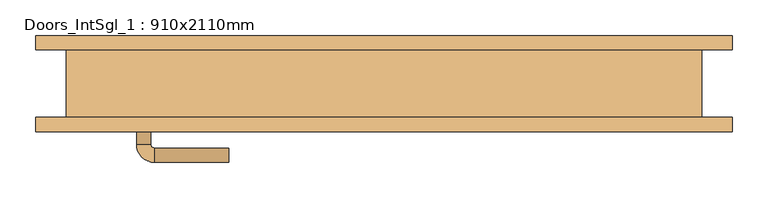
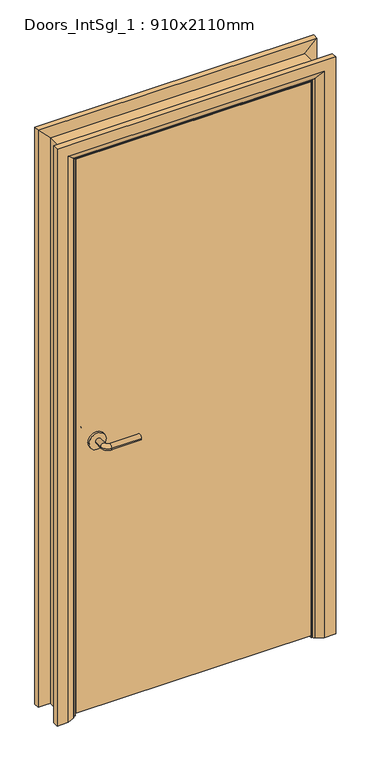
"""IFC4 building model written with IfcOpenShell, lengths in millimetres: door geometry, Doors_IntSgl_1 : 910x2110mm."""

from ifc_helpers import new_model, si_unit, point, frame, frame_2d, origin, place, context, project, spatial, polyline, circle_curve, ellipse_curve, trimmed, segment, composite_curve, outline, extrude, faceted_brep, source, transform, mapped, element, save
from ifc_brep_helpers import plane_surface, cylinder_surface, revolved_surface, advanced_brep


def doors_intsgl_1_910x2110mm_ba118736(model_context):
    return source(origin(), model_context, "Body", "SolidModel", [
        advanced_brep(
        [(-348.0, -1.5, 1000.0), (-328.0, -1.5, 1000.0), (-348.0, 28.5, 1000.0), (-328.0, 28.5, 1000.0), (-323.0, 33.5, 1000.0), (-323.0, 53.5, 1000.0), (-218.0, 53.5, 1000.0), (-218.0, 33.5, 1000.0)],
        [
            (0, 1, circle_curve(frame((-338.0, -1.5, 1000.0), z_axis=(0.0, -1.0, 0.0), x_axis=(1.0, 0.0, 0.0)), 10.0)),
            (1, 0, circle_curve(frame((-338.0, -1.5, 1000.0), z_axis=(0.0, -1.0, 0.0), x_axis=(1.0, 0.0, 0.0)), 10.0)),
            (0, 2),
            (2, 3, circle_curve(frame((-338.0, 28.5, 1000.0), z_axis=(0.0, -1.0, 0.0), x_axis=(1.0, 0.0, 0.0)), 10.0)),
            (3, 1),
            (3, 2, circle_curve(frame((-338.0, 28.5, 1000.0), z_axis=(0.0, -1.0, 0.0), x_axis=(1.0, 0.0, 0.0)), 10.0)),
            (4, 3, circle_curve(frame((-323.0, 28.5, 1000.0), z_axis=(0.0, 0.0, 1.0), x_axis=(-1.0, 0.0, 0.0)), 5.0)),
            (2, 5, circle_curve(frame((-323.0, 28.5, 1000.0), z_axis=(0.0, 0.0, -1.0), x_axis=(-1.0, 0.0, 0.0)), 25.0)),
            (5, 4, circle_curve(frame((-323.0, 43.5, 1000.0), z_axis=(-1.0, 0.0, 0.0), x_axis=(0.0, -1.0, 0.0)), 10.0)),
            (4, 5, circle_curve(frame((-323.0, 43.5, 1000.0), z_axis=(-1.0, 0.0, 0.0), x_axis=(0.0, -1.0, 0.0)), 10.0)),
            (6, 7, circle_curve(frame((-218.0, 43.5, 1000.0), z_axis=(1.0, 0.0, 0.0), x_axis=(0.0, -1.0, 0.0)), 10.0)),
            (7, 6, circle_curve(frame((-218.0, 43.5, 1000.0), z_axis=(1.0, 0.0, 0.0), x_axis=(0.0, -1.0, 0.0)), 10.0)),
            (5, 6),
            (7, 4),
        ],
        [
            plane_surface(frame((-338.0, -1.5, 1000.0), z_axis=(0.0, -1.0, 0.0), x_axis=(0.0, 0.0, 1.0))),
            cylinder_surface(frame((-338.0, -1.5, 1000.0), z_axis=(0.0, -1.0, 0.0), x_axis=(1.0, 0.0, 0.0)), 10.0),
            revolved_surface(trimmed(ellipse_curve(frame((-338.0, 28.5, 1000.0), z_axis=(0.0, -1.0, 0.0), x_axis=(1.0, 0.0, 0.0)), 10.0, 10.0), [point((-348.0, 28.5, 1000.0))], [point((-328.0, 28.5, 1000.0))], True, "CARTESIAN"), (-323.0, 28.5, 1000.0), (0.0, 0.0, -1.0)),
            revolved_surface(trimmed(ellipse_curve(frame((-338.0, 28.5, 1000.0), z_axis=(0.0, -1.0, 0.0), x_axis=(1.0, 0.0, 0.0)), 10.0, 10.0), [point((-328.0, 28.5, 1000.0))], [point((-348.0, 28.5, 1000.0))], True, "CARTESIAN"), (-323.0, 28.5, 1000.0), (0.0, 0.0, -1.0)),
            plane_surface(frame((-218.0, 43.5, 1000.0), z_axis=(1.0, 0.0, 0.0), x_axis=(0.0, 0.0, 1.0))),
            cylinder_surface(frame((-323.0, 43.5, 1000.0), z_axis=(-1.0, 0.0, 0.0), x_axis=(0.0, -1.0, 0.0)), 10.0),
        ],
        [
            (0, [[1, 2]]),
            (1, [[-1, 3, 4, 5]]),
            (1, [[-2, -5, 6, -3]]),
            (2, [[7, -4, 8, 9]]),
            (3, [[-8, -6, -7, 10]]),
            (4, [[11, 12]]),
            (5, [[-9, 13, -12, 14]]),
            (5, [[-10, -14, -11, -13]]),
        ],
    ),
        extrude(outline(composite_curve([segment(trimmed(circle_curve(frame_2d((1000.0, -340.5)), 30.0), [point((1000.0, -370.5))], [point((1000.0, -310.5))], False, "CARTESIAN"), True, "CONTINUOUS"), segment(trimmed(circle_curve(frame_2d((1000.0, -340.5)), 30.0), [point((1000.0, -310.5))], [point((1000.0, -370.5))], False, "CARTESIAN"), True, "CONTINUOUS")], self_intersect=False)), frame((0.0, -9.5, 0.0), z_axis=(0.0, 1.0, 0.0), x_axis=(0.0, 0.0, 1.0)), (0.0, 0.0, 1.0), 8.0),
        advanced_brep(
        [(-348.0, -55.5, 1000.0), (-328.0, -55.5, 1000.0), (-328.0, -85.5, 1000.0), (-348.0, -85.5, 1000.0), (-323.0, -90.5, 1000.0), (-323.0, -110.5, 1000.0), (-218.0, -110.5, 1000.0), (-218.0, -90.5, 1000.0)],
        [
            (0, 1, circle_curve(frame((-338.0, -55.5, 1000.0), z_axis=(0.0, 1.0, 0.0), x_axis=(1.0, 0.0, 0.0)), 10.0)),
            (1, 0, circle_curve(frame((-338.0, -55.5, 1000.0), z_axis=(0.0, 1.0, 0.0), x_axis=(1.0, 0.0, 0.0)), 10.0)),
            (1, 2),
            (2, 3, circle_curve(frame((-338.0, -85.5, 1000.0), z_axis=(0.0, 1.0, 0.0), x_axis=(1.0, 0.0, 0.0)), 10.0)),
            (3, 0),
            (3, 2, circle_curve(frame((-338.0, -85.5, 1000.0), z_axis=(0.0, 1.0, 0.0), x_axis=(1.0, 0.0, 0.0)), 10.0)),
            (4, 5, circle_curve(frame((-323.0, -100.5, 1000.0), z_axis=(-1.0, 0.0, 0.0), x_axis=(0.0, 1.0, 0.0)), 10.0)),
            (5, 3, circle_curve(frame((-323.0, -85.5, 1000.0), z_axis=(0.0, 0.0, -1.0), x_axis=(-1.0, 0.0, 0.0)), 25.0)),
            (2, 4, circle_curve(frame((-323.0, -85.5, 1000.0), z_axis=(0.0, 0.0, 1.0), x_axis=(-1.0, 0.0, 0.0)), 5.0)),
            (5, 4, circle_curve(frame((-323.0, -100.5, 1000.0), z_axis=(-1.0, 0.0, 0.0), x_axis=(0.0, 1.0, 0.0)), 10.0)),
            (6, 7, circle_curve(frame((-218.0, -100.5, 1000.0), z_axis=(1.0, 0.0, 0.0), x_axis=(0.0, 1.0, 0.0)), 10.0)),
            (7, 6, circle_curve(frame((-218.0, -100.5, 1000.0), z_axis=(1.0, 0.0, 0.0), x_axis=(0.0, 1.0, 0.0)), 10.0)),
            (4, 7),
            (6, 5),
        ],
        [
            plane_surface(frame((-338.0, -55.5, 1000.0), z_axis=(0.0, 1.0, 0.0), x_axis=(0.0, 0.0, 1.0))),
            cylinder_surface(frame((-338.0, -55.5, 1000.0), z_axis=(0.0, 1.0, 0.0), x_axis=(1.0, 0.0, 0.0)), 10.0),
            revolved_surface(trimmed(ellipse_curve(frame((-338.0, -85.5, 1000.0), z_axis=(0.0, -1.0, 0.0), x_axis=(1.0, 0.0, 0.0)), 10.0, 10.0), [point((-348.0, -85.5, 1000.0))], [point((-328.0, -85.5, 1000.0))], True, "CARTESIAN"), (-323.0, -85.5, 1000.0), (0.0, 0.0, -1.0)),
            revolved_surface(trimmed(ellipse_curve(frame((-338.0, -85.5, 1000.0), z_axis=(0.0, -1.0, 0.0), x_axis=(1.0, 0.0, 0.0)), 10.0, 10.0), [point((-328.0, -85.5, 1000.0))], [point((-348.0, -85.5, 1000.0))], True, "CARTESIAN"), (-323.0, -85.5, 1000.0), (0.0, 0.0, -1.0)),
            plane_surface(frame((-218.0, -100.5, 1000.0), z_axis=(1.0, 0.0, 0.0), x_axis=(0.0, 0.0, 1.0))),
            cylinder_surface(frame((-323.0, -100.5, 1000.0), z_axis=(-1.0, 0.0, 0.0), x_axis=(0.0, 1.0, 0.0)), 10.0),
        ],
        [
            (0, [[1, 2]]),
            (1, [[3, 4, 5, -2]]),
            (1, [[-5, 6, -3, -1]]),
            (2, [[7, 8, -4, 9]]),
            (3, [[10, -9, -6, -8]]),
            (4, [[11, 12]]),
            (5, [[13, -11, 14, -7]]),
            (5, [[-14, -12, -13, -10]]),
        ],
    ),
        extrude(outline(composite_curve([segment(trimmed(circle_curve(frame_2d((1000.0, -340.5)), 30.0), [point((1000.0, -370.5))], [point((1000.0, -310.5))], False, "CARTESIAN"), True, "CONTINUOUS"), segment(trimmed(circle_curve(frame_2d((1000.0, -340.5)), 30.0), [point((1000.0, -310.5))], [point((1000.0, -370.5))], False, "CARTESIAN"), True, "CONTINUOUS")], self_intersect=False)), frame((0.0, -55.5, 0.0), z_axis=(0.0, 1.0, 0.0), x_axis=(0.0, 0.0, 1.0)), (0.0, 0.0, 1.0), 8.0),
        extrude(outline(polyline([(413.0, -9.5), (413.0, -47.5), (-413.0, -47.5), (-413.0, -9.5), (413.0, -9.5)])), frame((0.0, 0.0, 8.0), z_axis=(0.0, 0.0, 1.0), x_axis=(1.0, 0.0, 0.0)), (0.0, 0.0, 1.0), 2060.0),
        faceted_brep([(-415.0, -47.5, 0.0), (-447.0, -47.5, 0.0), (-447.0, 47.5, 0.0), (-415.0, 47.5, 0.0), (-415.0, 47.5, 2070.0), (-415.0, -47.5, 2070.0), (-447.0, 47.5, 2102.0), (-447.0, -47.5, 2102.0), (415.0, -47.5, 0.0), (415.0, 47.5, 0.0), (447.0, 47.5, 0.0), (447.0, -47.5, 0.0), (415.0, -47.5, 2070.0), (447.0, -47.5, 2102.0), (447.0, 47.5, 2102.0), (415.0, 47.5, 2070.0)], [[[0, 1, 2, 3]], [[3, 4, 5, 0]], [[2, 6, 4, 3]], [[1, 7, 6, 2]], [[0, 5, 7, 1]], [[8, 9, 10, 11]], [[12, 8, 11, 13]], [[13, 11, 10, 14]], [[14, 10, 9, 15]], [[15, 9, 8, 12]], [[4, 15, 12, 5]], [[6, 14, 15, 4]], [[7, 13, 14, 6]], [[5, 12, 13, 7]]]),
        advanced_brep(
        [(-490.0, 67.5, 0.0), (-450.0, 67.5, 0.0), (-424.0, 53.5, 0.0), (-420.0, 47.5, 0.0), (-490.0, 47.5, 0.0), (-490.0, 47.5, 2145.0), (-490.0, 67.5, 2145.0), (-420.0, 47.5, 2075.0), (-424.0, 53.5, 2079.0), (-450.0, 67.5, 2105.0), (490.0, 67.5, 0.0), (490.0, 47.5, 0.0), (420.0, 47.5, 0.0), (424.0, 53.5, 0.0), (450.0, 67.5, 0.0), (490.0, 67.5, 2145.0), (450.0, 67.5, 2105.0), (424.0, 53.5, 2079.0), (420.0, 47.5, 2075.0), (490.0, 47.5, 2145.0)],
        [
            (0, 1),
            (1, 2),
            (2, 3, circle_curve(frame((-428.0, 46.5, 0.0), z_axis=(0.0, 0.0, -1.0), x_axis=(-1.0, 0.0, 0.0)), 8.0622577)),
            (3, 4),
            (4, 0),
            (4, 5),
            (5, 6),
            (6, 0),
            (3, 7),
            (7, 5),
            (2, 8),
            (8, 7, ellipse_curve(frame((-428.0, 46.5, 2083.0), z_axis=(-0.7071067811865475, 0.0, -0.7071067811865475), x_axis=(0.7071067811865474, 0.0, -0.7071067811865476)), 11.4017543, 8.0622577)),
            (1, 9),
            (9, 8),
            (6, 9),
            (10, 11),
            (11, 12),
            (12, 13, circle_curve(frame((428.0, 46.5, 0.0), z_axis=(0.0, 0.0, -1.0), x_axis=(1.0, 0.0, 0.0)), 8.0622577)),
            (13, 14),
            (14, 10),
            (15, 10),
            (14, 16),
            (16, 15),
            (13, 17),
            (17, 16),
            (12, 18),
            (18, 17, ellipse_curve(frame((428.0, 46.5, 2083.0), z_axis=(0.7071067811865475, 0.0, -0.7071067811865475), x_axis=(0.7071067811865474, 0.0, 0.7071067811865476)), 11.4017543, 8.0622577)),
            (11, 19),
            (19, 18),
            (15, 19),
            (5, 19),
            (15, 6),
            (7, 18),
            (8, 17),
            (9, 16),
        ],
        [
            plane_surface(frame((-420.0, 120.3010989, 0.0), z_axis=(0.0, 0.0, -1.0), x_axis=(1.0, 0.0, 0.0))),
            plane_surface(frame((-490.0, 67.5, 0.0), z_axis=(-1.0, 0.0, 0.0), x_axis=(0.0, 0.0, 1.0))),
            plane_surface(frame((-490.0, 47.5, 0.0), z_axis=(0.0, -1.0, 0.0), x_axis=(0.0, 0.0, 1.0))),
            cylinder_surface(frame((-428.0, 46.5, 0.0), z_axis=(0.0, 0.0, -1.0), x_axis=(-1.0, 0.0, 0.0)), 8.0622577),
            plane_surface(frame((-424.0, 53.5, 0.0), z_axis=(0.4740998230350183, 0.8804710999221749, 0.0), x_axis=(0.0, 0.0, 1.0))),
            plane_surface(frame((-450.0, 67.5, 0.0), z_axis=(0.0, 1.0, 0.0), x_axis=(0.0, 0.0, 1.0))),
            plane_surface(frame((420.0, 120.3010989, 0.0), z_axis=(0.0, 0.0, -1.0), x_axis=(-1.0, 0.0, 0.0))),
            plane_surface(frame((450.0, 67.5, 2105.0), z_axis=(0.0, 1.0, 0.0), x_axis=(0.0, 0.0, -1.0))),
            plane_surface(frame((424.0, 53.5, 2079.0), z_axis=(-0.4740998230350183, 0.8804710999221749, 0.0), x_axis=(0.0, 0.0, -1.0))),
            cylinder_surface(frame((428.0, 46.5, 2075.0), z_axis=(0.0, 0.0, 1.0), x_axis=(1.0, 0.0, 0.0)), 8.0622577),
            plane_surface(frame((490.0, 47.5, 2145.0), z_axis=(0.0, -1.0, 0.0), x_axis=(0.0, 0.0, -1.0))),
            plane_surface(frame((490.0, 67.5, 2145.0), z_axis=(1.0, 0.0, 0.0), x_axis=(0.0, 0.0, -1.0))),
            plane_surface(frame((-490.0, 67.5, 2145.0), z_axis=(0.0, 0.0, 1.0), x_axis=(1.0, 0.0, 0.0))),
            plane_surface(frame((-490.0, 47.5, 2145.0), z_axis=(0.0, -1.0, 0.0), x_axis=(1.0, 0.0, 0.0))),
            cylinder_surface(frame((-420.0, 46.5, 2083.0), z_axis=(-1.0, 0.0, 0.0), x_axis=(0.0, 0.0, 1.0)), 8.0622577),
            plane_surface(frame((-424.0, 53.5, 2079.0), z_axis=(0.0, 0.8804710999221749, -0.4740998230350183), x_axis=(1.0, 0.0, 0.0))),
            plane_surface(frame((-450.0, 67.5, 2105.0), z_axis=(0.0, 1.0, 0.0), x_axis=(1.0, 0.0, 0.0))),
        ],
        [
            (0, [[1, 2, 3, 4, 5]]),
            (1, [[6, 7, 8, -5]]),
            (2, [[9, 10, -6, -4]]),
            (3, [[11, 12, -9, -3]]),
            (4, [[13, 14, -11, -2]]),
            (5, [[-8, 15, -13, -1]]),
            (6, [[16, 17, 18, 19, 20]]),
            (7, [[21, -20, 22, 23]]),
            (8, [[-22, -19, 24, 25]]),
            (9, [[-24, -18, 26, 27]]),
            (10, [[-26, -17, 28, 29]]),
            (11, [[-28, -16, -21, 30]]),
            (12, [[31, -30, 32, -7]]),
            (13, [[33, -29, -31, -10]]),
            (14, [[34, -27, -33, -12]]),
            (15, [[35, -25, -34, -14]]),
            (16, [[-32, -23, -35, -15]]),
        ],
    ),
        extrude(outline(polyline([(0.0, -396.0), (2051.0, -396.0), (2051.0, 396.0), (0.0, 396.0), (0.0, 415.0), (2070.0, 415.0), (2070.0, -415.0), (0.0, -415.0), (0.0, -396.0)])), frame((0.0, -7.5, 0.0), z_axis=(0.0, 1.0, 0.0), x_axis=(0.0, 0.0, 1.0)), (0.0, 0.0, 1.0), 32.0),
        advanced_brep(
        [(490.0, -67.5, 0.0), (450.0, -67.5, 0.0), (424.0, -53.5, 0.0), (420.0, -47.5, 0.0), (490.0, -47.5, 0.0), (490.0, -47.5, 2145.0), (490.0, -67.5, 2145.0), (420.0, -47.5, 2075.0), (-420.0, -47.5, 2075.0), (-420.0, -47.5, 0.0), (-490.0, -47.5, 0.0), (-490.0, -47.5, 2145.0), (424.0, -53.5, 2079.0), (450.0, -67.5, 2105.0), (-490.0, -67.5, 2145.0), (-490.0, -67.5, 0.0), (-450.0, -67.5, 0.0), (-450.0, -67.5, 2105.0), (-424.0, -53.5, 0.0), (-424.0, -53.5, 2079.0)],
        [
            (0, 1),
            (1, 2),
            (2, 3, circle_curve(frame((428.0, -46.5, 0.0), z_axis=(0.0, 0.0, -1.0), x_axis=(1.0, 0.0, 0.0)), 8.0622577)),
            (3, 4),
            (4, 0),
            (4, 5),
            (5, 6),
            (6, 0),
            (3, 7),
            (7, 8),
            (8, 9),
            (9, 10),
            (10, 11),
            (11, 5),
            (2, 12),
            (12, 7, ellipse_curve(frame((428.0, -46.5, 2083.0), z_axis=(0.7071067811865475, 0.0, -0.7071067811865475), x_axis=(-0.7071067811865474, 0.0, -0.7071067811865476)), 11.4017543, 8.0622577)),
            (1, 13),
            (13, 12),
            (6, 14),
            (14, 15),
            (15, 16),
            (16, 17),
            (17, 13),
            (10, 15),
            (14, 11),
            (9, 18, circle_curve(frame((-428.0, -46.5, 0.0), z_axis=(0.0, 0.0, -1.0), x_axis=(-1.0, 0.0, 0.0)), 8.0622577)),
            (18, 16),
            (19, 18),
            (8, 19, ellipse_curve(frame((-428.0, -46.5, 2083.0), z_axis=(-0.7071067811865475, 0.0, -0.7071067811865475), x_axis=(-0.7071067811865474, 0.0, 0.7071067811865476)), 11.4017543, 8.0622577)),
            (19, 17),
            (12, 19),
        ],
        [
            plane_surface(frame((420.0, -47.5, 0.0), z_axis=(0.0, 0.0, -1.0), x_axis=(0.0, 1.0, 0.0))),
            plane_surface(frame((490.0, -67.5, 0.0), z_axis=(1.0, 0.0, 0.0), x_axis=(0.0, 0.0, 1.0))),
            plane_surface(frame((490.0, -47.5, 0.0), z_axis=(0.0, 1.0, 0.0), x_axis=(0.0, 0.0, 1.0))),
            cylinder_surface(frame((428.0, -46.5, 0.0), z_axis=(0.0, 0.0, -1.0), x_axis=(1.0, 0.0, 0.0)), 8.0622577),
            plane_surface(frame((424.0, -53.5, 0.0), z_axis=(-0.4740998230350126, -0.880471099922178, 0.0), x_axis=(0.0, 0.0, 1.0))),
            plane_surface(frame((450.0, -67.5, 0.0), z_axis=(0.0, -1.0, 0.0), x_axis=(0.0, 0.0, 1.0))),
            plane_surface(frame((-490.0, -67.5, 2145.0), z_axis=(-1.0, 0.0, 0.0), x_axis=(0.0, 0.0, -1.0))),
            plane_surface(frame((-420.0, -47.5, 0.0), z_axis=(0.0, 0.0, -1.0), x_axis=(0.0, 1.0, 0.0))),
            cylinder_surface(frame((-428.0, -46.5, 2075.0), z_axis=(0.0, 0.0, 1.0), x_axis=(-1.0, 0.0, 0.0)), 8.0622577),
            plane_surface(frame((-424.0, -53.5, 2079.0), z_axis=(0.47409982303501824, -0.8804710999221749, 0.0), x_axis=(0.0, 0.0, -1.0))),
            plane_surface(frame((490.0, -67.5, 2145.0), z_axis=(0.0, 0.0, 1.0), x_axis=(-1.0, 0.0, 0.0))),
            cylinder_surface(frame((420.0, -46.5, 2083.0), z_axis=(1.0, 0.0, 0.0), x_axis=(0.0, 0.0, 1.0)), 8.0622577),
            plane_surface(frame((424.0, -53.5, 2079.0), z_axis=(0.0, -0.8804710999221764, -0.4740998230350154), x_axis=(-1.0, 0.0, 0.0))),
        ],
        [
            (0, [[1, 2, 3, 4, 5]]),
            (1, [[6, 7, 8, -5]]),
            (2, [[9, 10, 11, 12, 13, 14, -6, -4]]),
            (3, [[15, 16, -9, -3]]),
            (4, [[17, 18, -15, -2]]),
            (5, [[-8, 19, 20, 21, 22, 23, -17, -1]]),
            (6, [[-13, 24, -20, 25]]),
            (7, [[-24, -12, 26, 27, -21]]),
            (8, [[28, -26, -11, 29]]),
            (9, [[-22, -27, -28, 30]]),
            (10, [[-14, -25, -19, -7]]),
            (11, [[31, -29, -10, -16]]),
            (12, [[-23, -30, -31, -18]]),
        ],
    ),
    ])


if __name__ == "__main__":
    model = new_model("IFC4")
    model_context = context("Model", 3, world=origin())
    ifc_project = project(units=[si_unit("LENGTHUNIT", "METRE", prefix="MILLI")], contexts=[model_context])
    site = spatial("IfcSite", under=ifc_project)
    building = spatial("IfcBuilding", under=site)
    placement = place(None, origin())
    doors_intsgl_1_910x2110mm_shape = doors_intsgl_1_910x2110mm_ba118736(model_context)
    element("IfcDoor", 1, ObjectType="Doors_IntSgl_1 : 910x2110mm", at=placement, inside=building, context=model_context, shape_type="MappedRepresentation", body=[
        mapped(doors_intsgl_1_910x2110mm_shape, transform((0.0, 0.0, 0.0), x_axis=(1.0, 0.0, 0.0), y_axis=(0.0, 1.0, 0.0), z_axis=(0.0, 0.0, 1.0))),
    ])
    save(model, "model.ifc")
